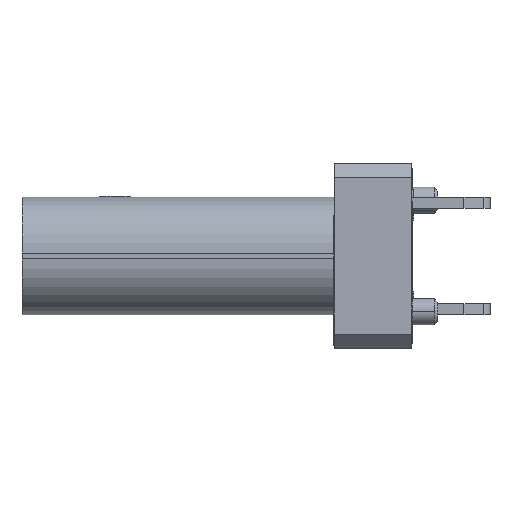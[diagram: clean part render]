
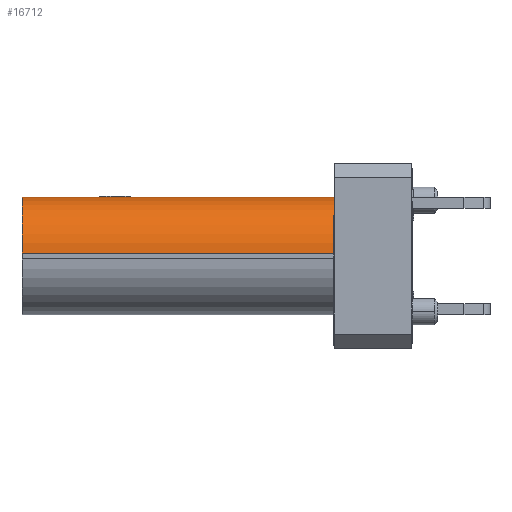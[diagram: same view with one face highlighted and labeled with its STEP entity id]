
A CAD part, left-side view. The second image highlights one B-rep face of the part: STEP entity #16712.
In plain terms, the highlighted cylindrical face has radius 1.5 mm (diameter 3 mm), a partial arc.
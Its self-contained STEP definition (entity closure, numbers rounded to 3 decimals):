
#983 = VERTEX_POINT ( 'NONE', #15714 ) ;
#1156 = DIRECTION ( 'NONE',  ( 0., 0., 1. ) ) ;
#1639 = LINE ( 'NONE', #8587, #2242 ) ;
#1876 = DIRECTION ( 'NONE',  ( -1., 0., 0. ) ) ;
#2070 = CARTESIAN_POINT ( 'NONE',  ( 20.205, 45.351, -1.5 ) ) ;
#2151 = FACE_OUTER_BOUND ( 'NONE', #14426, .T. ) ;
#2238 = VERTEX_POINT ( 'NONE', #2070 ) ;
#2242 = VECTOR ( 'NONE', #15626, 1000. ) ;
#2453 = CARTESIAN_POINT ( 'NONE',  ( 20.205, 36.951, -1.5 ) ) ;
#2644 = CARTESIAN_POINT ( 'NONE',  ( 20.205, 36.951, -1.5 ) ) ;
#2656 = ORIENTED_EDGE ( 'NONE', *, *, #18374, .T. ) ;
#3033 = AXIS2_PLACEMENT_3D ( 'NONE', #5373, #11101, #1156 ) ;
#3418 = EDGE_CURVE ( 'NONE', #16441, #983, #7721, .T. ) ;
#4786 = VERTEX_POINT ( 'NONE', #6686 ) ;
#4787 = CARTESIAN_POINT ( 'NONE',  ( 21.705, 51.951, -1.5 ) ) ;
#4966 = CYLINDRICAL_SURFACE ( 'NONE', #15541, 1.5 ) ;
#5373 = CARTESIAN_POINT ( 'NONE',  ( 21.705, 45.351, -1.5 ) ) ;
#6372 = ORIENTED_EDGE ( 'NONE', *, *, #13144, .F. ) ;
#6686 = CARTESIAN_POINT ( 'NONE',  ( 21.705, 45.351, 0. ) ) ;
#7721 = CIRCLE ( 'NONE', #18186, 1.5 ) ;
#8587 = CARTESIAN_POINT ( 'NONE',  ( 21.705, 44.851, 0. ) ) ;
#9016 = CIRCLE ( 'NONE', #3033, 1.5 ) ;
#9485 = DIRECTION ( 'NONE',  ( 0., 1., 0. ) ) ;
#9522 = VECTOR ( 'NONE', #9485, 1000. ) ;
#11101 = DIRECTION ( 'NONE',  ( 0., -1., 0. ) ) ;
#11128 = CARTESIAN_POINT ( 'NONE',  ( 21.705, 36.951, -1.5 ) ) ;
#12435 = DIRECTION ( 'NONE',  ( -1., 0., 0. ) ) ;
#13144 = EDGE_CURVE ( 'NONE', #4786, #983, #1639, .T. ) ;
#13758 = DIRECTION ( 'NONE',  ( 0., 1., 0. ) ) ;
#14426 = EDGE_LOOP ( 'NONE', ( #6372, #2656, #15654, #15375 ) ) ;
#15375 = ORIENTED_EDGE ( 'NONE', *, *, #3418, .T. ) ;
#15541 = AXIS2_PLACEMENT_3D ( 'NONE', #4787, #16408, #1876 ) ;
#15626 = DIRECTION ( 'NONE',  ( 0., -1., 0. ) ) ;
#15654 = ORIENTED_EDGE ( 'NONE', *, *, #15922, .F. ) ;
#15714 = CARTESIAN_POINT ( 'NONE',  ( 21.705, 36.951, 0. ) ) ;
#15922 = EDGE_CURVE ( 'NONE', #16441, #2238, #18017, .T. ) ;
#16408 = DIRECTION ( 'NONE',  ( 0., -1., 0. ) ) ;
#16441 = VERTEX_POINT ( 'NONE', #2644 ) ;
#16712 = ADVANCED_FACE ( 'NONE', ( #2151 ), #4966, .T. ) ;
#18017 = LINE ( 'NONE', #2453, #9522 ) ;
#18186 = AXIS2_PLACEMENT_3D ( 'NONE', #11128, #13758, #12435 ) ;
#18374 = EDGE_CURVE ( 'NONE', #4786, #2238, #9016, .T. ) ;
